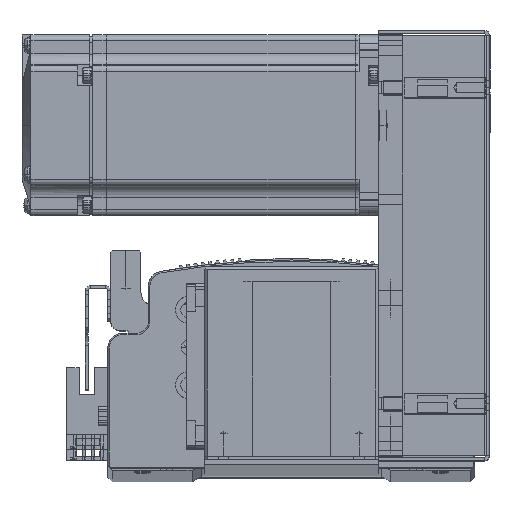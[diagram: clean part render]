
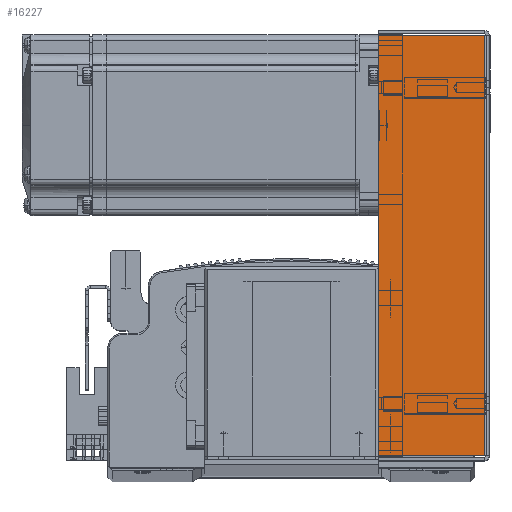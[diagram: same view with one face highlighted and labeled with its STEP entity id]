
A CAD part, top view. The second image highlights one B-rep face of the part: STEP entity #16227.
In plain terms, the highlighted planar face has unit normal (0, 0, 1) as drawn and (0, 0, -1) by its records, which use the part's own axes.
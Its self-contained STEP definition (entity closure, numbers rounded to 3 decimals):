
#11165 = EDGE_LOOP ( 'NONE', ( #91836, #91764, #91833, #91753 ) ) ;
#14079 = LINE ( 'NONE', #15309, #14135 ) ;
#14135 = VECTOR ( 'NONE', #15227, 1000. ) ;
#15227 = DIRECTION ( 'NONE',  ( 0., 1., 0. ) ) ;
#15309 = CARTESIAN_POINT ( 'NONE',  ( 69.793, 0., -33.5 ) ) ;
#15468 = LINE ( 'NONE', #17200, #15533 ) ;
#15533 = VECTOR ( 'NONE', #17201, 1000. ) ;
#15572 = LINE ( 'NONE', #17229, #15575 ) ;
#15575 = VECTOR ( 'NONE', #17252, 1000. ) ;
#15621 = LINE ( 'NONE', #16358, #15715 ) ;
#15715 = VECTOR ( 'NONE', #16329, 1000. ) ;
#16227 = ADVANCED_FACE ( 'NONE', ( #35102 ), #80435, .F. ) ;
#16329 = DIRECTION ( 'NONE',  ( 1., 0., 0. ) ) ;
#16358 = CARTESIAN_POINT ( 'NONE',  ( 0., 36., -33.5 ) ) ;
#17200 = CARTESIAN_POINT ( 'NONE',  ( -69.793, 0., -33.5 ) ) ;
#17201 = DIRECTION ( 'NONE',  ( 0., 1., 0. ) ) ;
#17229 = CARTESIAN_POINT ( 'NONE',  ( 71.5, 0.737, -33.5 ) ) ;
#17252 = DIRECTION ( 'NONE',  ( 1., 0., 0. ) ) ;
#35102 = FACE_OUTER_BOUND ( 'NONE', #11165, .T. ) ;
#62239 = CARTESIAN_POINT ( 'NONE',  ( -69.793, 36., -33.5 ) ) ;
#62240 = CARTESIAN_POINT ( 'NONE',  ( 69.793, 36., -33.5 ) ) ;
#62268 = CARTESIAN_POINT ( 'NONE',  ( 69.793, 0.737, -33.5 ) ) ;
#62274 = CARTESIAN_POINT ( 'NONE',  ( -69.793, 0.737, -33.5 ) ) ;
#80382 = DIRECTION ( 'NONE',  ( 0., 0., 1. ) ) ;
#80416 = CARTESIAN_POINT ( 'NONE',  ( 0., 0., -33.5 ) ) ;
#80435 = PLANE ( 'NONE',  #81931 ) ;
#80444 = DIRECTION ( 'NONE',  ( 0., -1., 0. ) ) ;
#81931 = AXIS2_PLACEMENT_3D ( 'NONE', #80416, #80382, #80444 ) ;
#82881 = EDGE_CURVE ( 'NONE', #92057, #92019, #15468, .T. ) ;
#82883 = EDGE_CURVE ( 'NONE', #92057, #92070, #15572, .T. ) ;
#82931 = EDGE_CURVE ( 'NONE', #92019, #92021, #15621, .T. ) ;
#82972 = EDGE_CURVE ( 'NONE', #92070, #92021, #14079, .T. ) ;
#91753 = ORIENTED_EDGE ( 'NONE', *, *, #82972, .F. ) ;
#91764 = ORIENTED_EDGE ( 'NONE', *, *, #82881, .T. ) ;
#91833 = ORIENTED_EDGE ( 'NONE', *, *, #82931, .T. ) ;
#91836 = ORIENTED_EDGE ( 'NONE', *, *, #82883, .F. ) ;
#92019 = VERTEX_POINT ( 'NONE', #62239 ) ;
#92021 = VERTEX_POINT ( 'NONE', #62240 ) ;
#92057 = VERTEX_POINT ( 'NONE', #62274 ) ;
#92070 = VERTEX_POINT ( 'NONE', #62268 ) ;
